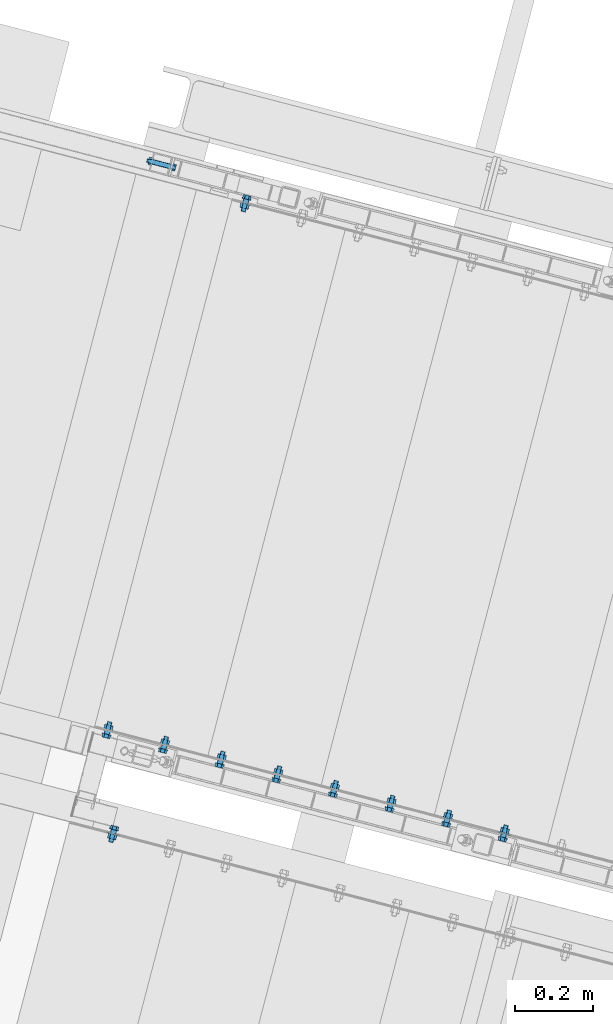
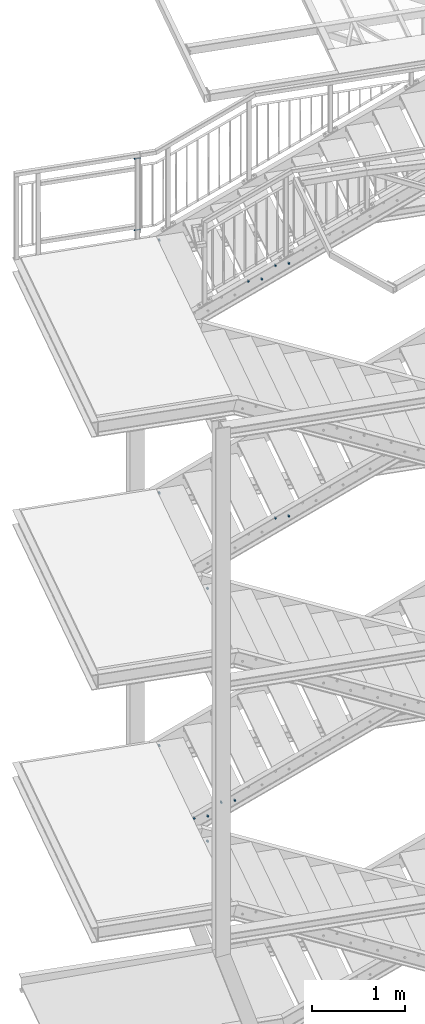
# One storey, part 147 of 169: 17 mechanical fasteners, 10 elements without a shape of their own.
"""IFC2X3 building model written with IfcOpenShell, lengths in millimetres."""

from ifc_helpers import new_model, si_unit, frame, frame_2d, origin_with_axes, origin_2d_with_axis, place, context, subcontext, project, spatial, polyline, circle_curve, parameter, trimmed, segment, composite_curve, circle, outline, extrude, source, transform, mapped, material, type_object, element, aggregate, save


model = new_model("IFC2X3")

# Units and contexts
model_context = context("Model", 3, precision=1e-05, world=origin_with_axes())
body_context = subcontext(model_context, "Body", "Model", "MODEL_VIEW")
ifc_project = project(units=[si_unit("LENGTHUNIT", "METRE", prefix="MILLI"), si_unit("AREAUNIT", "SQUARE_METRE"), si_unit("VOLUMEUNIT", "CUBIC_METRE"), si_unit("MASSUNIT", "GRAM", prefix="KILO"), si_unit("TIMEUNIT", "SECOND"), si_unit("PLANEANGLEUNIT", "RADIAN"), si_unit("SOLIDANGLEUNIT", "STERADIAN"), si_unit("THERMODYNAMICTEMPERATUREUNIT", "DEGREE_CELSIUS"), si_unit("LUMINOUSINTENSITYUNIT", "LUMEN")], contexts=[model_context])

# Site, building, storey
site_placement = place(None, origin_with_axes())
site = spatial("IfcSite", under=ifc_project, at=site_placement, Name="Undefined", CompositionType="ELEMENT")
building_placement = place(site_placement, origin_with_axes())
building = spatial("IfcBuilding", under=site, at=building_placement, Name="Undefined", CompositionType="ELEMENT")
storey_placement = place(building_placement, origin_with_axes())
storey = spatial("IfcBuildingStorey", under=building, at=storey_placement, Name="Undefined", CompositionType="ELEMENT", Elevation=0.0)

# Assembly, mechanical fasteners
assembly_1_placement = place(storey_placement, origin_with_axes())
assembly_1 = element("IfcElementAssembly", 1, at=assembly_1_placement, inside=storey, Name="Steel Assembly", AssemblyPlace="NOTDEFINED", PredefinedType="RIGID_FRAME")
ifc_material = material(Name="Undefined")
discrete_accessory_type = type_object("IfcDiscreteAccessoryType", Name="Bolt assembly")
shared_shape_1 = source(origin_with_axes(), body_context, "Body", "SweptSolid", [
    extrude(circle(Radius=6.5, at=origin_2d_with_axis()), frame((0.0, 5.8999994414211, 0.0), z_axis=(0.0, 1.0, 0.0), x_axis=(1.0, 0.0, 0.0)), (0.0, 0.0, 1.0), 47.1),
    extrude(circle(Radius=6.5, at=origin_2d_with_axis()), frame((0.0, 0.100000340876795, 0.0), z_axis=(0.0, 1.0, 0.0), x_axis=(1.0, 0.0, 0.0)), (0.0, 0.0, 1.0), 5.0),
    extrude(outline(polyline([(8.66025403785, 0.0), (4.330127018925, 7.50000000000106), (-4.330127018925, 7.50000000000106), (-8.66025403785, 0.0), (-4.330127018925, -7.50000000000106), (4.330127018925, -7.50000000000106), (8.66025403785, 0.0)])), frame((0.0, -8.39999975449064, 0.0), z_axis=(0.0, 1.0, 0.0), x_axis=(1.0, 0.0, 0.0)), (0.0, 0.0, 1.0), 6.4),
    extrude(circle(Radius=5.0, at=origin_2d_with_axis()), frame((0.0, -1.9999996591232, 0.0), z_axis=(0.0, 1.0, 0.0), x_axis=(1.0, 0.0, 0.0)), (0.0, 0.0, 1.0), 70.0),
    extrude(circle(Radius=10.0, at=origin_2d_with_axis()), frame((0.0, -1.9999996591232, 0.0), z_axis=(0.0, 1.0, 0.0), x_axis=(1.0, 0.0, 0.0)), (0.0, 0.0, 1.0), 2.0),
    extrude(circle(Radius=10.0, at=origin_2d_with_axis()), frame((0.0, 53.0000000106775, 0.0), z_axis=(0.0, 1.0, 0.0), x_axis=(1.0, 0.0, 0.0)), (0.0, 0.0, 1.0), 2.0),
    extrude(outline(polyline([(9.81495457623, 0.0), (4.907477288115, 8.5000000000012), (-4.907477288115, 8.5000000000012), (-9.81495457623, 0.0), (-4.907477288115, -8.5000000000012), (4.907477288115, -8.5000000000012), (9.81495457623, 0.0)])), frame((0.0, 54.9999999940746, 0.0), z_axis=(0.0, 1.0, 0.0), x_axis=(1.0, 0.0, 0.0)), (0.0, 0.0, 1.0), 8.0),
])
mechanical_fastener_1_placement = place(assembly_1_placement, frame((-27719.179322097, 8846.0308602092, 13404.9945169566), z_axis=(3.4552000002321e-05, 0.000132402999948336, 0.999999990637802), x_axis=(0.252628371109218, 0.967563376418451, -0.000136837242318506)))
mechanical_fastener_1 = element("IfcMechanicalFastener", 2, at=mechanical_fastener_1_placement, type_object=discrete_accessory_type, material=ifc_material, Name="Bolt assembly", NominalDiameter=10.0, NominalLength=70.0, context=body_context, shape_type="MappedRepresentation", body=[
    mapped(shared_shape_1, transform((0.0, 0.0, 0.0))),
])
mechanical_fastener_2_placement = place(assembly_1_placement, frame((-27719.2115058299, 8845.90759765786, 12473.9945256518), z_axis=(3.4552000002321e-05, 0.000132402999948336, 0.999999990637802), x_axis=(0.252628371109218, 0.967563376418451, -0.000136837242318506)))
mechanical_fastener_2 = element("IfcMechanicalFastener", 3, at=mechanical_fastener_2_placement, type_object=discrete_accessory_type, material=ifc_material, Name="Bolt assembly", NominalDiameter=10.0, NominalLength=70.0, context=body_context, shape_type="MappedRepresentation", body=[
    mapped(shared_shape_1, transform((0.0, 0.0, 0.0))),
])
aggregate(assembly_1, [mechanical_fastener_1, mechanical_fastener_2])

# Assembly, mechanical fastener
assembly_2_placement = place(storey_placement, origin_with_axes())
assembly_2 = element("IfcElementAssembly", 4, at=assembly_2_placement, inside=storey, Name="Steel Assembly", AssemblyPlace="NOTDEFINED", PredefinedType="RIGID_FRAME")
shared_shape_2 = source(origin_with_axes(), body_context, "Body", "SweptSolid", [
    extrude(circle(Radius=7.5, at=origin_2d_with_axis()), frame((0.0, -8.39999975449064, 0.0), z_axis=(0.0, 1.0, 0.0), x_axis=(1.0, 0.0, 0.0)), (0.0, 0.0, 1.0), 8.5),
    extrude(circle(Radius=7.5, at=origin_2d_with_axis()), frame((0.0, -0.100000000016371, 0.0), z_axis=(0.0, 1.0, 0.0), x_axis=(1.0, 0.0, 0.0)), (0.0, 0.0, 1.0), 3.1),
    extrude(outline(polyline([(10.39230484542, 0.0), (5.19615242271, 9.00000000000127), (-5.19615242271, 9.00000000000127), (-10.39230484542, 0.0), (-5.19615242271, -9.00000000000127), (5.19615242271, -9.00000000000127), (10.39230484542, 0.0)])), frame((0.0, -18.4999993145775, 0.0), z_axis=(0.0, 1.0, 0.0), x_axis=(1.0, 0.0, 0.0)), (0.0, 0.0, 1.0), 7.5),
    extrude(circle(Radius=6.0, at=origin_2d_with_axis()), frame((0.0, -10.9999999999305, 0.0), z_axis=(0.0, 1.0, 0.0), x_axis=(1.0, 0.0, 0.0)), (0.0, 0.0, 1.0), 35.0),
    extrude(circle(Radius=12.0, at=origin_2d_with_axis()), frame((0.0, -10.9999999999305, 0.0), z_axis=(0.0, 1.0, 0.0), x_axis=(1.0, 0.0, 0.0)), (0.0, 0.0, 1.0), 2.5),
    extrude(circle(Radius=12.0, at=origin_2d_with_axis()), frame((0.0, 2.99999999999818, 0.0), z_axis=(0.0, 1.0, 0.0), x_axis=(1.0, 0.0, 0.0)), (0.0, 0.0, 1.0), 2.5),
    extrude(outline(polyline([(10.96965511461, 0.0), (5.484827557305, 9.50000000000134), (-5.484827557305, 9.50000000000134), (-10.96965511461, 0.0), (-5.484827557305, -9.50000000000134), (5.484827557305, -9.50000000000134), (10.96965511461, 0.0)])), frame((0.0, 5.50000000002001, 0.0), z_axis=(0.0, 1.0, 0.0), x_axis=(1.0, 0.0, 0.0)), (0.0, 0.0, 1.0), 10.0),
])
mechanical_fastener_3_placement = place(assembly_2_placement, frame((-26758.3382435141, 7106.82297928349, 12800.0957858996), z_axis=(-2.54700353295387e-10, 0.0, -1.0), x_axis=(-0.967580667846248, 0.252562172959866, 0.0)))
mechanical_fastener_3 = element("IfcMechanicalFastener", 5, at=mechanical_fastener_3_placement, type_object=discrete_accessory_type, material=ifc_material, Name="Bolt assembly", NominalDiameter=12.0, NominalLength=35.0, context=body_context, shape_type="MappedRepresentation", body=[
    mapped(shared_shape_2, transform((264.999998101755, 3.26144800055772e-09, 24.9999997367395))),
])

assembly_3_placement = place(storey_placement, origin_with_axes())
assembly_3 = element("IfcElementAssembly", 6, at=assembly_3_placement, inside=storey, Name="Steel Assembly", AssemblyPlace="NOTDEFINED", PredefinedType="RIGID_FRAME")
mechanical_fastener_4_placement = place(assembly_3_placement, frame((-27048.6124472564, 7182.59163209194, 12650.0957859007), z_axis=(-2.54700353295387e-10, 0.0, -1.0), x_axis=(-0.967580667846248, 0.252562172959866, 0.0)))
mechanical_fastener_4 = element("IfcMechanicalFastener", 7, at=mechanical_fastener_4_placement, type_object=discrete_accessory_type, material=ifc_material, Name="Bolt assembly", NominalDiameter=12.0, NominalLength=35.0, context=body_context, shape_type="MappedRepresentation", body=[
    mapped(shared_shape_2, transform((264.999998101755, 3.26144800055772e-09, 24.9999997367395))),
])

assembly_4_placement = place(storey_placement, origin_with_axes())
assembly_4 = element("IfcElementAssembly", 8, at=assembly_4_placement, inside=storey, Name="Steel Assembly", AssemblyPlace="NOTDEFINED", PredefinedType="RIGID_FRAME")
mechanical_fastener_5_placement = place(assembly_4_placement, frame((-27565.8480124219, 8764.51052597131, 12350.0957859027), z_axis=(-2.54700353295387e-10, 0.0, -1.0), x_axis=(0.967580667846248, -0.252562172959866, 0.0)))
mechanical_fastener_5 = element("IfcMechanicalFastener", 9, at=mechanical_fastener_5_placement, type_object=discrete_accessory_type, material=ifc_material, Name="Bolt assembly", NominalDiameter=12.0, NominalLength=35.0, context=body_context, shape_type="MappedRepresentation", body=[
    mapped(shared_shape_2, transform((35.0000000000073, -1.23691279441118e-10, 25.0))),
])
aggregate(assembly_4, [mechanical_fastener_5])

assembly_5_placement = place(storey_placement, origin_with_axes())
assembly_5 = element("IfcElementAssembly", 10, at=assembly_5_placement, inside=storey, Name="Steel Assembly", AssemblyPlace="NOTDEFINED", PredefinedType="RIGID_FRAME")
mechanical_fastener_6_placement = place(assembly_5_placement, frame((-26758.4523208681, 7106.38606432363, 9500.09581681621), z_axis=(-2.54700353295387e-10, 0.0, -1.0), x_axis=(-0.967580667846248, 0.252562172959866, 0.0)))
mechanical_fastener_6 = element("IfcMechanicalFastener", 11, at=mechanical_fastener_6_placement, type_object=discrete_accessory_type, material=ifc_material, Name="Bolt assembly", NominalDiameter=12.0, NominalLength=35.0, context=body_context, shape_type="MappedRepresentation", body=[
    mapped(shared_shape_2, transform((264.999998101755, 3.26144800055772e-09, 24.9999997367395))),
])

assembly_6_placement = place(storey_placement, origin_with_axes())
assembly_6 = element("IfcElementAssembly", 12, at=assembly_6_placement, inside=storey, Name="Steel Assembly", AssemblyPlace="NOTDEFINED", PredefinedType="RIGID_FRAME")
mechanical_fastener_7_placement = place(assembly_6_placement, frame((-27565.9620897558, 8764.0736110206, 9050.09581681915), z_axis=(-2.54700353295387e-10, 0.0, -1.0), x_axis=(0.967580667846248, -0.252562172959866, 0.0)))
mechanical_fastener_7 = element("IfcMechanicalFastener", 13, at=mechanical_fastener_7_placement, type_object=discrete_accessory_type, material=ifc_material, Name="Bolt assembly", NominalDiameter=12.0, NominalLength=35.0, context=body_context, shape_type="MappedRepresentation", body=[
    mapped(shared_shape_2, transform((35.0000000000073, -1.23691279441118e-10, 25.0))),
])
aggregate(assembly_6, [mechanical_fastener_7])

assembly_7_placement = place(storey_placement, origin_with_axes())
assembly_7 = element("IfcElementAssembly", 14, at=assembly_7_placement, inside=storey, Name="Steel Assembly", AssemblyPlace="NOTDEFINED", PredefinedType="RIGID_FRAME")
mechanical_fastener_8_placement = place(assembly_7_placement, frame((-27339.1148057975, 7257.4864550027, 5900.09584768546), z_axis=(-2.54700353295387e-10, 0.0, -1.0), x_axis=(-0.967580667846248, 0.252562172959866, 0.0)))
mechanical_fastener_8 = element("IfcMechanicalFastener", 15, at=mechanical_fastener_8_placement, type_object=discrete_accessory_type, material=ifc_material, Name="Bolt assembly", NominalDiameter=12.0, NominalLength=35.0, context=body_context, shape_type="MappedRepresentation", body=[
    mapped(shared_shape_2, transform((264.999998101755, 3.26144800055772e-09, 24.9999997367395))),
])

# Assembly, mechanical fasteners
assembly_8_placement = place(storey_placement, origin_with_axes())
assembly_8 = element("IfcElementAssembly", 16, at=assembly_8_placement, inside=storey, Name="Steel Assembly", AssemblyPlace="NOTDEFINED", PredefinedType="RIGID_FRAME")
mechanical_fastener_9_placement = place(assembly_8_placement, frame((-27566.0761672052, 8763.63669606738, 5750.0958476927), z_axis=(-2.54700353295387e-10, 0.0, -1.0), x_axis=(0.967580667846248, -0.252562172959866, 0.0)))
mechanical_fastener_9 = element("IfcMechanicalFastener", 17, at=mechanical_fastener_9_placement, type_object=discrete_accessory_type, material=ifc_material, Name="Bolt assembly", NominalDiameter=12.0, NominalLength=35.0, context=body_context, shape_type="MappedRepresentation", body=[
    mapped(shared_shape_2, transform((35.0000000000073, -1.23691279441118e-10, 25.0))),
])
mechanical_fastener_10_placement = place(assembly_8_placement, frame((-27629.3890095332, 7333.25510781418, 5750.09584768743), z_axis=(-2.54700353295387e-10, 0.0, -1.0), x_axis=(-0.967580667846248, 0.252562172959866, 0.0)))
mechanical_fastener_10 = element("IfcMechanicalFastener", 18, at=mechanical_fastener_10_placement, type_object=discrete_accessory_type, material=ifc_material, Name="Bolt assembly", NominalDiameter=12.0, NominalLength=35.0, context=body_context, shape_type="MappedRepresentation", body=[
    mapped(shared_shape_2, transform((264.999998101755, 3.26144800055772e-09, 24.9999997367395))),
])

# Mechanical fastener
shared_shape_3 = source(origin_with_axes(), body_context, "Body", "SweptSolid", [
    extrude(circle(Radius=7.5, at=origin_2d_with_axis()), frame((0.0, -8.39999975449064, 0.0), z_axis=(0.0, 1.0, 0.0), x_axis=(1.0, 0.0, 0.0)), (0.0, 0.0, 1.0), 8.5),
    extrude(outline(composite_curve([segment(polyline([(-10.0, 7.5), (10.0, 7.5)]), True, "CONTINUOUS"), segment(trimmed(circle_curve(frame_2d((10.0, 0.0), x_axis=(0.0, 1.0)), 7.5), [parameter(0.0)], [parameter(3.14159265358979)], False, "PARAMETER"), True, "CONTINUOUS"), segment(polyline([(10.0, -7.5), (-10.0, -7.5)]), True, "CONTINUOUS"), segment(trimmed(circle_curve(frame_2d((-10.0, 0.0), x_axis=(0.0, -1.0)), 7.5), [parameter(0.0)], [parameter(3.14159265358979)], False, "PARAMETER"), True, "DISCONTINUOUS")], self_intersect=False)), frame((0.0, -0.100000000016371, 0.0), z_axis=(0.0, 1.0, 0.0), x_axis=(1.0, 0.0, 0.0)), (0.0, 0.0, 1.0), 3.1),
    extrude(outline(polyline([(10.39230484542, 0.0), (5.19615242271, 9.00000000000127), (-5.19615242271, 9.00000000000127), (-10.39230484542, 0.0), (-5.19615242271, -9.00000000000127), (5.19615242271, -9.00000000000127), (10.39230484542, 0.0)])), frame((0.0, -18.4999993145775, 0.0), z_axis=(0.0, 1.0, 0.0), x_axis=(1.0, 0.0, 0.0)), (0.0, 0.0, 1.0), 7.5),
    extrude(circle(Radius=6.0, at=origin_2d_with_axis()), frame((0.0, -10.9999999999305, 0.0), z_axis=(0.0, 1.0, 0.0), x_axis=(1.0, 0.0, 0.0)), (0.0, 0.0, 1.0), 35.0),
    extrude(circle(Radius=12.0, at=origin_2d_with_axis()), frame((0.0, -10.9999999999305, 0.0), z_axis=(0.0, 1.0, 0.0), x_axis=(1.0, 0.0, 0.0)), (0.0, 0.0, 1.0), 2.5),
    extrude(circle(Radius=12.0, at=origin_2d_with_axis()), frame((0.0, 2.99999999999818, 0.0), z_axis=(0.0, 1.0, 0.0), x_axis=(1.0, 0.0, 0.0)), (0.0, 0.0, 1.0), 2.5),
    extrude(outline(polyline([(10.96965511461, 0.0), (5.484827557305, 9.50000000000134), (-5.484827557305, 9.50000000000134), (-10.96965511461, 0.0), (-5.484827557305, -9.50000000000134), (5.484827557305, -9.50000000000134), (10.96965511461, 0.0)])), frame((0.0, 5.50000000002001, 0.0), z_axis=(0.0, 1.0, 0.0), x_axis=(1.0, 0.0, 0.0)), (0.0, 0.0, 1.0), 10.0),
])
mechanical_fastener_11_placement = place(assembly_2_placement, frame((-26758.3382435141, 7106.82297928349, 12800.0957858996), z_axis=(-2.54700353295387e-10, 0.0, -1.0), x_axis=(-0.967580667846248, 0.252562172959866, 0.0)))
mechanical_fastener_11 = element("IfcMechanicalFastener", 19, at=mechanical_fastener_11_placement, type_object=discrete_accessory_type, material=ifc_material, Name="Bolt assembly", NominalDiameter=12.0, NominalLength=35.0, context=body_context, shape_type="MappedRepresentation", body=[
    mapped(shared_shape_3, transform((115.000000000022, -4.04725142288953e-10, 25.0))),
])

aggregate(assembly_2, [mechanical_fastener_11, mechanical_fastener_3])

shared_shape_4 = source(origin_with_axes(), body_context, "Body", "SweptSolid", [
    extrude(circle(Radius=7.5, at=origin_2d_with_axis()), frame((0.0, -8.39999975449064, 0.0), z_axis=(0.0, 1.0, 0.0), x_axis=(1.0, 0.0, 0.0)), (0.0, 0.0, 1.0), 8.5),
    extrude(outline(composite_curve([segment(polyline([(-10.0, 7.5), (10.0, 7.5)]), True, "CONTINUOUS"), segment(trimmed(circle_curve(frame_2d((10.0, 0.0), x_axis=(0.0, 1.0)), 7.5), [parameter(0.0)], [parameter(3.14159265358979)], False, "PARAMETER"), True, "CONTINUOUS"), segment(polyline([(10.0, -7.5), (-10.0, -7.5)]), True, "CONTINUOUS"), segment(trimmed(circle_curve(frame_2d((-10.0, 0.0), x_axis=(0.0, -1.0)), 7.5), [parameter(0.0)], [parameter(3.14159265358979)], False, "PARAMETER"), True, "DISCONTINUOUS")], self_intersect=False)), frame((0.0, -0.100000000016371, 0.0), z_axis=(0.0, 1.0, 0.0), x_axis=(1.0, 0.0, 0.0)), (0.0, 0.0, 1.0), 3.1),
    extrude(outline(polyline([(10.39230484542, 0.0), (5.19615242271, 9.00000000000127), (-5.19615242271, 9.00000000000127), (-10.39230484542, 0.0), (-5.19615242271, -9.00000000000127), (5.19615242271, -9.00000000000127), (10.39230484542, 0.0)])), frame((0.0, -18.4999993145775, 0.0), z_axis=(0.0, 1.0, 0.0), x_axis=(1.0, 0.0, 0.0)), (0.0, 0.0, 1.0), 7.5),
    extrude(circle(Radius=6.0, at=origin_2d_with_axis()), frame((0.0, -10.9999999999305, 0.0), z_axis=(0.0, 1.0, 0.0), x_axis=(1.0, 0.0, 0.0)), (0.0, 0.0, 1.0), 35.0),
    extrude(circle(Radius=12.0, at=origin_2d_with_axis()), frame((0.0, -10.9999999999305, 0.0), z_axis=(0.0, 1.0, 0.0), x_axis=(1.0, 0.0, 0.0)), (0.0, 0.0, 1.0), 2.5),
    extrude(circle(Radius=12.0, at=origin_2d_with_axis()), frame((0.0, 2.99999999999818, 0.0), z_axis=(0.0, 1.0, 0.0), x_axis=(1.0, 0.0, 0.0)), (0.0, 0.0, 1.0), 2.5),
    extrude(outline(polyline([(10.96965511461, 0.0), (5.484827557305, 9.50000000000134), (-5.484827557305, 9.50000000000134), (-10.96965511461, 0.0), (-5.484827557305, -9.50000000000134), (5.484827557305, -9.50000000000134), (10.96965511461, 0.0)])), frame((0.0, 5.50000000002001, 0.0), z_axis=(0.0, 1.0, 0.0), x_axis=(1.0, 0.0, 0.0)), (0.0, 0.0, 1.0), 10.0),
])
mechanical_fastener_12_placement = place(assembly_3_placement, frame((-27048.6124472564, 7182.59163209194, 12650.0957859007), z_axis=(-2.54700353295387e-10, 0.0, -1.0), x_axis=(-0.967580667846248, 0.252562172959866, 0.0)))
mechanical_fastener_12 = element("IfcMechanicalFastener", 20, at=mechanical_fastener_12_placement, type_object=discrete_accessory_type, material=ifc_material, Name="Bolt assembly", NominalDiameter=12.0, NominalLength=35.0, context=body_context, shape_type="MappedRepresentation", body=[
    mapped(shared_shape_4, transform((115.000000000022, -4.04725142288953e-10, 25.0))),
])

aggregate(assembly_3, [mechanical_fastener_12, mechanical_fastener_4])

shared_shape_5 = source(origin_with_axes(), body_context, "Body", "SweptSolid", [
    extrude(circle(Radius=7.5, at=origin_2d_with_axis()), frame((0.0, -8.39999975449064, 0.0), z_axis=(0.0, 1.0, 0.0), x_axis=(1.0, 0.0, 0.0)), (0.0, 0.0, 1.0), 8.5),
    extrude(outline(composite_curve([segment(polyline([(-10.0, 7.5), (10.0, 7.5)]), True, "CONTINUOUS"), segment(trimmed(circle_curve(frame_2d((10.0, 0.0), x_axis=(0.0, 1.0)), 7.5), [parameter(0.0)], [parameter(3.14159265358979)], False, "PARAMETER"), True, "CONTINUOUS"), segment(polyline([(10.0, -7.5), (-10.0, -7.5)]), True, "CONTINUOUS"), segment(trimmed(circle_curve(frame_2d((-10.0, 0.0), x_axis=(0.0, -1.0)), 7.5), [parameter(0.0)], [parameter(3.14159265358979)], False, "PARAMETER"), True, "DISCONTINUOUS")], self_intersect=False)), frame((0.0, -0.100000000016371, 0.0), z_axis=(0.0, 1.0, 0.0), x_axis=(1.0, 0.0, 0.0)), (0.0, 0.0, 1.0), 3.1),
    extrude(outline(polyline([(10.39230484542, 0.0), (5.19615242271, 9.00000000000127), (-5.19615242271, 9.00000000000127), (-10.39230484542, 0.0), (-5.19615242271, -9.00000000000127), (5.19615242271, -9.00000000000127), (10.39230484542, 0.0)])), frame((0.0, -18.4999993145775, 0.0), z_axis=(0.0, 1.0, 0.0), x_axis=(1.0, 0.0, 0.0)), (0.0, 0.0, 1.0), 7.5),
    extrude(circle(Radius=6.0, at=origin_2d_with_axis()), frame((0.0, -10.9999999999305, 0.0), z_axis=(0.0, 1.0, 0.0), x_axis=(1.0, 0.0, 0.0)), (0.0, 0.0, 1.0), 35.0),
    extrude(circle(Radius=12.0, at=origin_2d_with_axis()), frame((0.0, -10.9999999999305, 0.0), z_axis=(0.0, 1.0, 0.0), x_axis=(1.0, 0.0, 0.0)), (0.0, 0.0, 1.0), 2.5),
    extrude(circle(Radius=12.0, at=origin_2d_with_axis()), frame((0.0, 2.99999999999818, 0.0), z_axis=(0.0, 1.0, 0.0), x_axis=(1.0, 0.0, 0.0)), (0.0, 0.0, 1.0), 2.5),
    extrude(outline(polyline([(10.96965511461, 0.0), (5.484827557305, 9.50000000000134), (-5.484827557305, 9.50000000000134), (-10.96965511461, 0.0), (-5.484827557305, -9.50000000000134), (5.484827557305, -9.50000000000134), (10.96965511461, 0.0)])), frame((0.0, 5.50000000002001, 0.0), z_axis=(0.0, 1.0, 0.0), x_axis=(1.0, 0.0, 0.0)), (0.0, 0.0, 1.0), 10.0),
])
mechanical_fastener_13_placement = place(assembly_5_placement, frame((-26758.4523208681, 7106.38606432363, 9500.09581681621), z_axis=(-2.54700353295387e-10, 0.0, -1.0), x_axis=(-0.967580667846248, 0.252562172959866, 0.0)))
mechanical_fastener_13 = element("IfcMechanicalFastener", 21, at=mechanical_fastener_13_placement, type_object=discrete_accessory_type, material=ifc_material, Name="Bolt assembly", NominalDiameter=12.0, NominalLength=35.0, context=body_context, shape_type="MappedRepresentation", body=[
    mapped(shared_shape_5, transform((115.000000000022, -4.04725142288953e-10, 25.0))),
])

aggregate(assembly_5, [mechanical_fastener_13, mechanical_fastener_6])

# Assembly, mechanical fastener
assembly_9_placement = place(storey_placement, origin_with_axes())
assembly_9 = element("IfcElementAssembly", 22, at=assembly_9_placement, inside=storey, Name="Steel Assembly", AssemblyPlace="NOTDEFINED", PredefinedType="RIGID_FRAME")
shared_shape_6 = source(origin_with_axes(), body_context, "Body", "SweptSolid", [
    extrude(circle(Radius=7.5, at=origin_2d_with_axis()), frame((0.0, -8.39999975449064, 0.0), z_axis=(0.0, 1.0, 0.0), x_axis=(1.0, 0.0, 0.0)), (0.0, 0.0, 1.0), 8.5),
    extrude(outline(composite_curve([segment(polyline([(-10.0, 7.5), (10.0, 7.5)]), True, "CONTINUOUS"), segment(trimmed(circle_curve(frame_2d((10.0, 0.0), x_axis=(0.0, 1.0)), 7.5), [parameter(0.0)], [parameter(3.14159265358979)], False, "PARAMETER"), True, "CONTINUOUS"), segment(polyline([(10.0, -7.5), (-10.0, -7.5)]), True, "CONTINUOUS"), segment(trimmed(circle_curve(frame_2d((-10.0, 0.0), x_axis=(0.0, -1.0)), 7.5), [parameter(0.0)], [parameter(3.14159265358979)], False, "PARAMETER"), True, "DISCONTINUOUS")], self_intersect=False)), frame((0.0, -0.100000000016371, 0.0), z_axis=(0.0, 1.0, 0.0), x_axis=(1.0, 0.0, 0.0)), (0.0, 0.0, 1.0), 3.1),
    extrude(outline(polyline([(10.39230484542, 0.0), (5.19615242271, 9.00000000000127), (-5.19615242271, 9.00000000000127), (-10.39230484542, 0.0), (-5.19615242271, -9.00000000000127), (5.19615242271, -9.00000000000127), (10.39230484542, 0.0)])), frame((0.0, -18.4999993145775, 0.0), z_axis=(0.0, 1.0, 0.0), x_axis=(1.0, 0.0, 0.0)), (0.0, 0.0, 1.0), 7.5),
    extrude(circle(Radius=6.0, at=origin_2d_with_axis()), frame((0.0, -10.9999999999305, 0.0), z_axis=(0.0, 1.0, 0.0), x_axis=(1.0, 0.0, 0.0)), (0.0, 0.0, 1.0), 35.0),
    extrude(circle(Radius=12.0, at=origin_2d_with_axis()), frame((0.0, -10.9999999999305, 0.0), z_axis=(0.0, 1.0, 0.0), x_axis=(1.0, 0.0, 0.0)), (0.0, 0.0, 1.0), 2.5),
    extrude(circle(Radius=12.0, at=origin_2d_with_axis()), frame((0.0, 2.99999999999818, 0.0), z_axis=(0.0, 1.0, 0.0), x_axis=(1.0, 0.0, 0.0)), (0.0, 0.0, 1.0), 2.5),
    extrude(outline(polyline([(10.96965511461, 0.0), (5.484827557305, 9.50000000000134), (-5.484827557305, 9.50000000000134), (-10.96965511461, 0.0), (-5.484827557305, -9.50000000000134), (5.484827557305, -9.50000000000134), (10.96965511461, 0.0)])), frame((0.0, 5.50000000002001, 0.0), z_axis=(0.0, 1.0, 0.0), x_axis=(1.0, 0.0, 0.0)), (0.0, 0.0, 1.0), 10.0),
])
mechanical_fastener_14_placement = place(assembly_9_placement, frame((-27982.7062490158, 7167.56984727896, 8900.32161330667), z_axis=(-2.54700353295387e-10, 0.0, -1.0), x_axis=(0.96754609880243, -0.252694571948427, 0.0)))
mechanical_fastener_14 = element("IfcMechanicalFastener", 23, at=mechanical_fastener_14_placement, type_object=discrete_accessory_type, material=ifc_material, Name="Bolt assembly", NominalDiameter=12.0, NominalLength=35.0, context=body_context, shape_type="MappedRepresentation", body=[
    mapped(shared_shape_6, transform((115.000000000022, -4.04725142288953e-10, 25.0))),
])
aggregate(assembly_9, [mechanical_fastener_14])

# Mechanical fastener
shared_shape_7 = source(origin_with_axes(), body_context, "Body", "SweptSolid", [
    extrude(circle(Radius=7.5, at=origin_2d_with_axis()), frame((0.0, -8.39999975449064, 0.0), z_axis=(0.0, 1.0, 0.0), x_axis=(1.0, 0.0, 0.0)), (0.0, 0.0, 1.0), 8.5),
    extrude(outline(composite_curve([segment(polyline([(-10.0, 7.5), (10.0, 7.5)]), True, "CONTINUOUS"), segment(trimmed(circle_curve(frame_2d((10.0, 0.0), x_axis=(0.0, 1.0)), 7.5), [parameter(0.0)], [parameter(3.14159265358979)], False, "PARAMETER"), True, "CONTINUOUS"), segment(polyline([(10.0, -7.5), (-10.0, -7.5)]), True, "CONTINUOUS"), segment(trimmed(circle_curve(frame_2d((-10.0, 0.0), x_axis=(0.0, -1.0)), 7.5), [parameter(0.0)], [parameter(3.14159265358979)], False, "PARAMETER"), True, "DISCONTINUOUS")], self_intersect=False)), frame((0.0, -0.100000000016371, 0.0), z_axis=(0.0, 1.0, 0.0), x_axis=(1.0, 0.0, 0.0)), (0.0, 0.0, 1.0), 3.1),
    extrude(outline(polyline([(10.39230484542, 0.0), (5.19615242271, 9.00000000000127), (-5.19615242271, 9.00000000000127), (-10.39230484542, 0.0), (-5.19615242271, -9.00000000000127), (5.19615242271, -9.00000000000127), (10.39230484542, 0.0)])), frame((0.0, -18.4999993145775, 0.0), z_axis=(0.0, 1.0, 0.0), x_axis=(1.0, 0.0, 0.0)), (0.0, 0.0, 1.0), 7.5),
    extrude(circle(Radius=6.0, at=origin_2d_with_axis()), frame((0.0, -10.9999999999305, 0.0), z_axis=(0.0, 1.0, 0.0), x_axis=(1.0, 0.0, 0.0)), (0.0, 0.0, 1.0), 35.0),
    extrude(circle(Radius=12.0, at=origin_2d_with_axis()), frame((0.0, -10.9999999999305, 0.0), z_axis=(0.0, 1.0, 0.0), x_axis=(1.0, 0.0, 0.0)), (0.0, 0.0, 1.0), 2.5),
    extrude(circle(Radius=12.0, at=origin_2d_with_axis()), frame((0.0, 2.99999999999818, 0.0), z_axis=(0.0, 1.0, 0.0), x_axis=(1.0, 0.0, 0.0)), (0.0, 0.0, 1.0), 2.5),
    extrude(outline(polyline([(10.96965511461, 0.0), (5.484827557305, 9.50000000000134), (-5.484827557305, 9.50000000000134), (-10.96965511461, 0.0), (-5.484827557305, -9.50000000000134), (5.484827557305, -9.50000000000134), (10.96965511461, 0.0)])), frame((0.0, 5.50000000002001, 0.0), z_axis=(0.0, 1.0, 0.0), x_axis=(1.0, 0.0, 0.0)), (0.0, 0.0, 1.0), 10.0),
])
mechanical_fastener_15_placement = place(assembly_7_placement, frame((-27339.1148057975, 7257.4864550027, 5900.09584768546), z_axis=(-2.54700353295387e-10, 0.0, -1.0), x_axis=(-0.967580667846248, 0.252562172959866, 0.0)))
mechanical_fastener_15 = element("IfcMechanicalFastener", 24, at=mechanical_fastener_15_placement, type_object=discrete_accessory_type, material=ifc_material, Name="Bolt assembly", NominalDiameter=12.0, NominalLength=35.0, context=body_context, shape_type="MappedRepresentation", body=[
    mapped(shared_shape_7, transform((115.000000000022, -4.04725142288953e-10, 25.0))),
])

aggregate(assembly_7, [mechanical_fastener_15, mechanical_fastener_8])

shared_shape_8 = source(origin_with_axes(), body_context, "Body", "SweptSolid", [
    extrude(circle(Radius=7.5, at=origin_2d_with_axis()), frame((0.0, -8.39999975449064, 0.0), z_axis=(0.0, 1.0, 0.0), x_axis=(1.0, 0.0, 0.0)), (0.0, 0.0, 1.0), 8.5),
    extrude(outline(composite_curve([segment(polyline([(-10.0, 7.5), (10.0, 7.5)]), True, "CONTINUOUS"), segment(trimmed(circle_curve(frame_2d((10.0, 0.0), x_axis=(0.0, 1.0)), 7.5), [parameter(0.0)], [parameter(3.14159265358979)], False, "PARAMETER"), True, "CONTINUOUS"), segment(polyline([(10.0, -7.5), (-10.0, -7.5)]), True, "CONTINUOUS"), segment(trimmed(circle_curve(frame_2d((-10.0, 0.0), x_axis=(0.0, -1.0)), 7.5), [parameter(0.0)], [parameter(3.14159265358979)], False, "PARAMETER"), True, "DISCONTINUOUS")], self_intersect=False)), frame((0.0, -0.100000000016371, 0.0), z_axis=(0.0, 1.0, 0.0), x_axis=(1.0, 0.0, 0.0)), (0.0, 0.0, 1.0), 3.1),
    extrude(outline(polyline([(10.39230484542, 0.0), (5.19615242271, 9.00000000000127), (-5.19615242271, 9.00000000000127), (-10.39230484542, 0.0), (-5.19615242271, -9.00000000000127), (5.19615242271, -9.00000000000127), (10.39230484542, 0.0)])), frame((0.0, -18.4999993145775, 0.0), z_axis=(0.0, 1.0, 0.0), x_axis=(1.0, 0.0, 0.0)), (0.0, 0.0, 1.0), 7.5),
    extrude(circle(Radius=6.0, at=origin_2d_with_axis()), frame((0.0, -10.9999999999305, 0.0), z_axis=(0.0, 1.0, 0.0), x_axis=(1.0, 0.0, 0.0)), (0.0, 0.0, 1.0), 35.0),
    extrude(circle(Radius=12.0, at=origin_2d_with_axis()), frame((0.0, -10.9999999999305, 0.0), z_axis=(0.0, 1.0, 0.0), x_axis=(1.0, 0.0, 0.0)), (0.0, 0.0, 1.0), 2.5),
    extrude(circle(Radius=12.0, at=origin_2d_with_axis()), frame((0.0, 2.99999999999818, 0.0), z_axis=(0.0, 1.0, 0.0), x_axis=(1.0, 0.0, 0.0)), (0.0, 0.0, 1.0), 2.5),
    extrude(outline(polyline([(10.96965511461, 0.0), (5.484827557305, 9.50000000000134), (-5.484827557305, 9.50000000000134), (-10.96965511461, 0.0), (-5.484827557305, -9.50000000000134), (5.484827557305, -9.50000000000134), (10.96965511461, 0.0)])), frame((0.0, 5.50000000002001, 0.0), z_axis=(0.0, 1.0, 0.0), x_axis=(1.0, 0.0, 0.0)), (0.0, 0.0, 1.0), 10.0),
])
mechanical_fastener_16_placement = place(assembly_8_placement, frame((-27629.3890095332, 7333.25510781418, 5750.09584768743), z_axis=(-2.54700353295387e-10, 0.0, -1.0), x_axis=(-0.967580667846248, 0.252562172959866, 0.0)))
mechanical_fastener_16 = element("IfcMechanicalFastener", 25, at=mechanical_fastener_16_placement, type_object=discrete_accessory_type, material=ifc_material, Name="Bolt assembly", NominalDiameter=12.0, NominalLength=35.0, context=body_context, shape_type="MappedRepresentation", body=[
    mapped(shared_shape_8, transform((115.000000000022, -4.04725142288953e-10, 25.0))),
])

aggregate(assembly_8, [mechanical_fastener_9, mechanical_fastener_16, mechanical_fastener_10])

# Assembly, mechanical fastener
assembly_10_placement = place(storey_placement, origin_with_axes())
assembly_10 = element("IfcElementAssembly", 26, at=assembly_10_placement, inside=storey, Name="Steel Assembly", AssemblyPlace="NOTDEFINED", PredefinedType="RIGID_FRAME")
shared_shape_9 = source(origin_with_axes(), body_context, "Body", "SweptSolid", [
    extrude(circle(Radius=7.5, at=origin_2d_with_axis()), frame((0.0, -8.39999975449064, 0.0), z_axis=(0.0, 1.0, 0.0), x_axis=(1.0, 0.0, 0.0)), (0.0, 0.0, 1.0), 8.5),
    extrude(outline(composite_curve([segment(polyline([(-10.0, 7.5), (10.0, 7.5)]), True, "CONTINUOUS"), segment(trimmed(circle_curve(frame_2d((10.0, 0.0), x_axis=(0.0, 1.0)), 7.5), [parameter(0.0)], [parameter(3.14159265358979)], False, "PARAMETER"), True, "CONTINUOUS"), segment(polyline([(10.0, -7.5), (-10.0, -7.5)]), True, "CONTINUOUS"), segment(trimmed(circle_curve(frame_2d((-10.0, 0.0), x_axis=(0.0, -1.0)), 7.5), [parameter(0.0)], [parameter(3.14159265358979)], False, "PARAMETER"), True, "DISCONTINUOUS")], self_intersect=False)), frame((0.0, -0.100000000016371, 0.0), z_axis=(0.0, 1.0, 0.0), x_axis=(1.0, 0.0, 0.0)), (0.0, 0.0, 1.0), 3.1),
    extrude(outline(polyline([(10.39230484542, 0.0), (5.19615242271, 9.00000000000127), (-5.19615242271, 9.00000000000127), (-10.39230484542, 0.0), (-5.19615242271, -9.00000000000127), (5.19615242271, -9.00000000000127), (10.39230484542, 0.0)])), frame((0.0, -18.4999993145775, 0.0), z_axis=(0.0, 1.0, 0.0), x_axis=(1.0, 0.0, 0.0)), (0.0, 0.0, 1.0), 7.5),
    extrude(circle(Radius=6.0, at=origin_2d_with_axis()), frame((0.0, -10.9999999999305, 0.0), z_axis=(0.0, 1.0, 0.0), x_axis=(1.0, 0.0, 0.0)), (0.0, 0.0, 1.0), 35.0),
    extrude(circle(Radius=12.0, at=origin_2d_with_axis()), frame((0.0, -10.9999999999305, 0.0), z_axis=(0.0, 1.0, 0.0), x_axis=(1.0, 0.0, 0.0)), (0.0, 0.0, 1.0), 2.5),
    extrude(circle(Radius=12.0, at=origin_2d_with_axis()), frame((0.0, 2.99999999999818, 0.0), z_axis=(0.0, 1.0, 0.0), x_axis=(1.0, 0.0, 0.0)), (0.0, 0.0, 1.0), 2.5),
    extrude(outline(polyline([(10.96965511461, 0.0), (5.484827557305, 9.50000000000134), (-5.484827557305, 9.50000000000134), (-10.96965511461, 0.0), (-5.484827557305, -9.50000000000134), (5.484827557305, -9.50000000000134), (10.96965511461, 0.0)])), frame((0.0, 5.50000000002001, 0.0), z_axis=(0.0, 1.0, 0.0), x_axis=(1.0, 0.0, 0.0)), (0.0, 0.0, 1.0), 10.0),
])
mechanical_fastener_17_placement = place(assembly_10_placement, frame((-27982.8203264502, 7167.13293233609, 5600.32164421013), z_axis=(-2.54700353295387e-10, 0.0, -1.0), x_axis=(0.96754609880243, -0.252694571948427, 0.0)))
mechanical_fastener_17 = element("IfcMechanicalFastener", 27, at=mechanical_fastener_17_placement, type_object=discrete_accessory_type, material=ifc_material, Name="Bolt assembly", NominalDiameter=12.0, NominalLength=35.0, context=body_context, shape_type="MappedRepresentation", body=[
    mapped(shared_shape_9, transform((115.000000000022, -4.04725142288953e-10, 25.0))),
])
aggregate(assembly_10, [mechanical_fastener_17])

save(model, "model.ifc")
